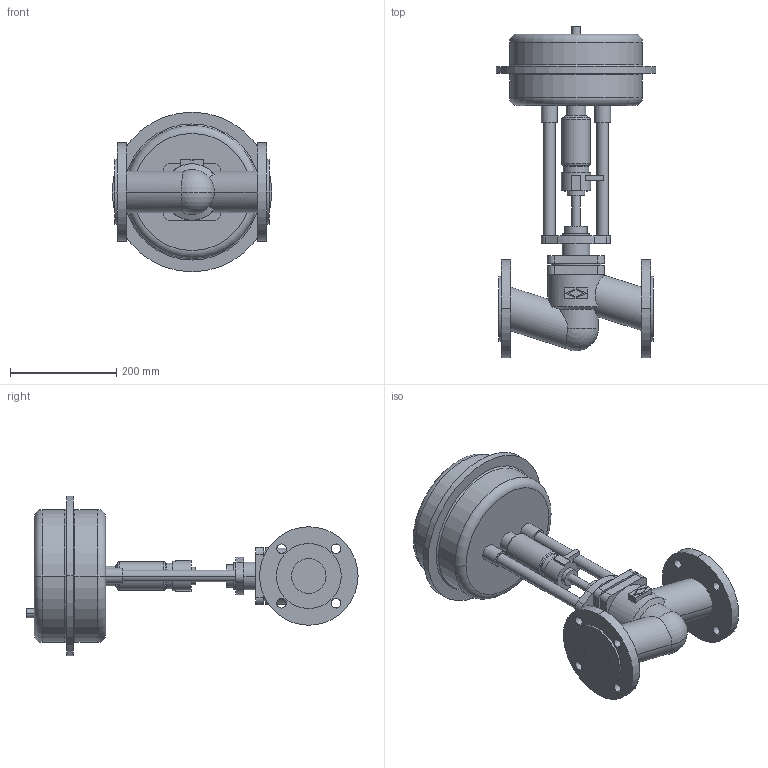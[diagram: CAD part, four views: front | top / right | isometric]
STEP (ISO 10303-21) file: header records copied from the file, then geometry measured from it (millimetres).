
FILE_DESCRIPTION(('OneSpaceDesigner STEP Export'),'2;1');
FILE_NAME('c000001471.stp','2005-02-15T 9:24:15',(''),(''),'OneSpace Designer STEP processor (Jan. 2003) for AP203(Solid Model)','OneSpace Designer 12.01D 09-Jul-2004 (C) CoCreate Software GmbH','');
FILE_SCHEMA(('CONFIG_CONTROL_DESIGN'));
Length unit declared in the file: millimetre
Products named in the file (2): 1; 2
Bounding box: 300 x 624.1 x 300 mm (x, y, z)
Volume: 10687614.3 mm3; surface area: 568729.9 mm2
Topology: 2 solids, 2 shells, 181 faces, 436 edges, 284 vertices
Faces by surface type: cylinder 84, plane 73, torus 16, cone 6, sphere 2
Entity records: 5125 total; most frequent: CARTESIAN_POINT 1064, ORIENTED_EDGE 868, DIRECTION 727, EDGE_CURVE 434, VERTEX_POINT 284, AXIS2_PLACEMENT_3D 264, EDGE_LOOP 224, VECTOR 199
